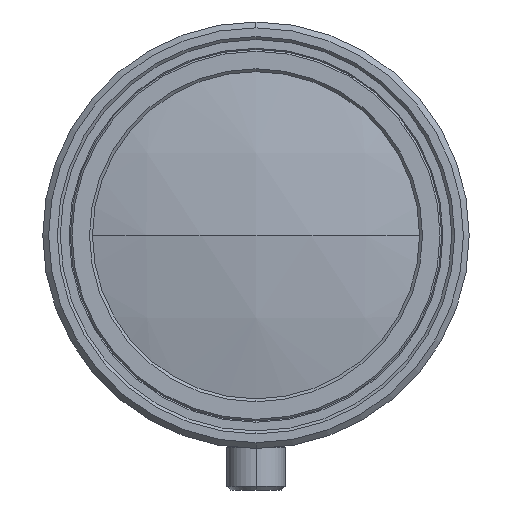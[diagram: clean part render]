
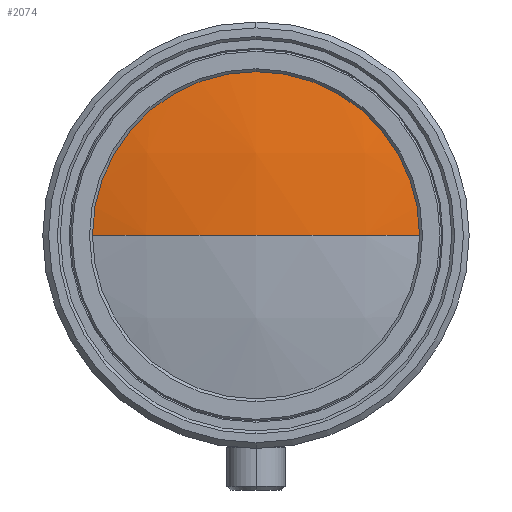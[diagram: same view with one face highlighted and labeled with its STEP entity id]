
A CAD part, left-side view. The second image highlights one B-rep face of the part: STEP entity #2074.
In plain terms, the highlighted spherical face has radius 60 mm.
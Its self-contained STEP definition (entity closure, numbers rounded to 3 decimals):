
#55 = ORIENTED_EDGE ( 'NONE', *, *, #2144, .F. ) ;
#106 = DIRECTION ( 'NONE',  ( 0., 0., 1. ) ) ;
#130 = CARTESIAN_POINT ( 'NONE',  ( -118.844, 14., 0. ) ) ;
#150 = DIRECTION ( 'NONE',  ( 1., 0., 0. ) ) ;
#159 = DIRECTION ( 'NONE',  ( 0., 0., -1. ) ) ;
#269 = CARTESIAN_POINT ( 'NONE',  ( -118.844, -14., 0. ) ) ;
#305 = SPHERICAL_SURFACE ( 'NONE', #2624, 60. ) ;
#350 = DIRECTION ( 'NONE',  ( 0., 0., 1. ) ) ;
#362 = CARTESIAN_POINT ( 'NONE',  ( -60.5, 0., 0. ) ) ;
#390 = FACE_OUTER_BOUND ( 'NONE', #1836, .T. ) ;
#494 = VERTEX_POINT ( 'NONE', #269 ) ;
#648 = VERTEX_POINT ( 'NONE', #130 ) ;
#728 = CIRCLE ( 'NONE', #2010, 60. ) ;
#865 = EDGE_CURVE ( 'NONE', #2931, #494, #728, .T. ) ;
#1149 = CARTESIAN_POINT ( 'NONE',  ( -118.844, 0., 0. ) ) ;
#1335 = EDGE_CURVE ( 'NONE', #648, #1913, #1474, .T. ) ;
#1385 = CARTESIAN_POINT ( 'NONE',  ( -120.5, 0., 0. ) ) ;
#1416 = DIRECTION ( 'NONE',  ( 0., 0., -1. ) ) ;
#1474 = CIRCLE ( 'NONE', #2761, 14. ) ;
#1482 = AXIS2_PLACEMENT_3D ( 'NONE', #1685, #159, #1949 ) ;
#1518 = ORIENTED_EDGE ( 'NONE', *, *, #2953, .F. ) ;
#1675 = CARTESIAN_POINT ( 'NONE',  ( -118.844, 0., 0. ) ) ;
#1685 = CARTESIAN_POINT ( 'NONE',  ( -60.5, 0., 0. ) ) ;
#1836 = EDGE_LOOP ( 'NONE', ( #55, #2099, #1518, #2213 ) ) ;
#1872 = CARTESIAN_POINT ( 'NONE',  ( -60.5, 0., 0. ) ) ;
#1913 = VERTEX_POINT ( 'NONE', #2617 ) ;
#1939 = DIRECTION ( 'NONE',  ( 0., 0., -1. ) ) ;
#1949 = DIRECTION ( 'NONE',  ( -1., 0., 0. ) ) ;
#2010 = AXIS2_PLACEMENT_3D ( 'NONE', #1872, #350, #2135 ) ;
#2074 = ADVANCED_FACE ( 'NONE', ( #390 ), #305, .T. ) ;
#2099 = ORIENTED_EDGE ( 'NONE', *, *, #865, .T. ) ;
#2135 = DIRECTION ( 'NONE',  ( 0., -1., 0. ) ) ;
#2144 = EDGE_CURVE ( 'NONE', #2931, #648, #2726, .T. ) ;
#2213 = ORIENTED_EDGE ( 'NONE', *, *, #1335, .F. ) ;
#2393 = AXIS2_PLACEMENT_3D ( 'NONE', #1149, #2962, #1416 ) ;
#2422 = DIRECTION ( 'NONE',  ( 0., 1., 0. ) ) ;
#2424 = CIRCLE ( 'NONE', #2393, 14. ) ;
#2617 = CARTESIAN_POINT ( 'NONE',  ( -118.844, 0., 14. ) ) ;
#2624 = AXIS2_PLACEMENT_3D ( 'NONE', #362, #106, #2422 ) ;
#2726 = CIRCLE ( 'NONE', #1482, 60. ) ;
#2761 = AXIS2_PLACEMENT_3D ( 'NONE', #1675, #150, #1939 ) ;
#2931 = VERTEX_POINT ( 'NONE', #1385 ) ;
#2953 = EDGE_CURVE ( 'NONE', #1913, #494, #2424, .T. ) ;
#2962 = DIRECTION ( 'NONE',  ( 1., 0., 0. ) ) ;
